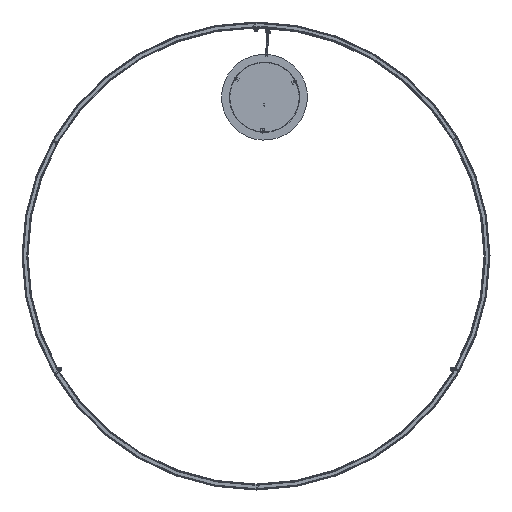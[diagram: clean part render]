
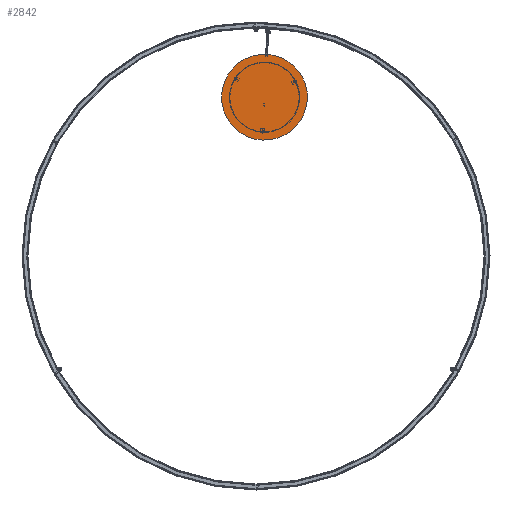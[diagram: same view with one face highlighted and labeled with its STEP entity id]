
A CAD part, front view. The second image highlights one B-rep face of the part: STEP entity #2842.
In plain terms, the highlighted planar face has unit normal (0, -1, 0).
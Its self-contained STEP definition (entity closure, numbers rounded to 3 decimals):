
#829 = FACE_OUTER_BOUND ( 'NONE', #2879, .T. ) ;
#2842 = ADVANCED_FACE ( 'NONE', ( #829 ), #8958, .F. ) ;
#2854 = VERTEX_POINT ( 'NONE', #19966 ) ;
#2879 = EDGE_LOOP ( 'NONE', ( #34708, #9786 ) ) ;
#3357 = DIRECTION ( 'NONE',  ( 0., 1., 0. ) ) ;
#6643 = EDGE_CURVE ( 'NONE', #2854, #34665, #18268, .T. ) ;
#8958 = PLANE ( 'NONE',  #32849 ) ;
#9786 = ORIENTED_EDGE ( 'NONE', *, *, #6643, .F. ) ;
#10427 = AXIS2_PLACEMENT_3D ( 'NONE', #13710, #18421, #29589 ) ;
#11303 = CARTESIAN_POINT ( 'NONE',  ( 0., -1.5, 0. ) ) ;
#12915 = EDGE_CURVE ( 'NONE', #34665, #2854, #24824, .T. ) ;
#13218 = CARTESIAN_POINT ( 'NONE',  ( 0., -1.5, 0. ) ) ;
#13710 = CARTESIAN_POINT ( 'NONE',  ( 0., -1.5, 0. ) ) ;
#13854 = DIRECTION ( 'NONE',  ( 0., 0., 1. ) ) ;
#18268 = CIRCLE ( 'NONE', #33240, 165. ) ;
#18421 = DIRECTION ( 'NONE',  ( 0., 1., 0. ) ) ;
#19326 = DIRECTION ( 'NONE',  ( 0., 1., 0. ) ) ;
#19966 = CARTESIAN_POINT ( 'NONE',  ( 0., -1.5, -165. ) ) ;
#24824 = CIRCLE ( 'NONE', #10427, 165. ) ;
#29589 = DIRECTION ( 'NONE',  ( 0., 0., 1. ) ) ;
#32388 = CARTESIAN_POINT ( 'NONE',  ( 0., -1.5, 165. ) ) ;
#32849 = AXIS2_PLACEMENT_3D ( 'NONE', #11303, #3357, #13854 ) ;
#33240 = AXIS2_PLACEMENT_3D ( 'NONE', #13218, #19326, #35036 ) ;
#34665 = VERTEX_POINT ( 'NONE', #32388 ) ;
#34708 = ORIENTED_EDGE ( 'NONE', *, *, #12915, .F. ) ;
#35036 = DIRECTION ( 'NONE',  ( 0., 0., 1. ) ) ;
